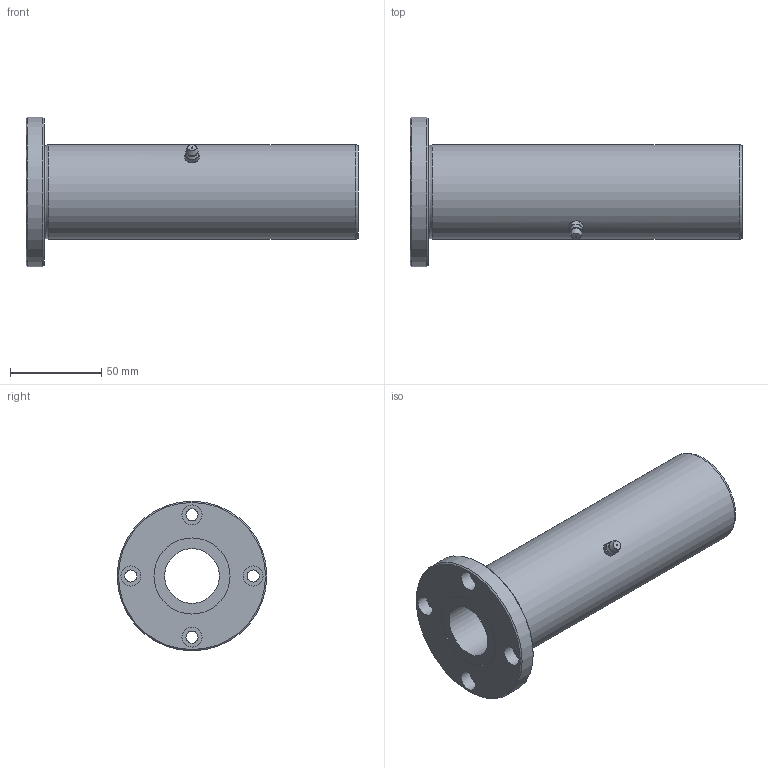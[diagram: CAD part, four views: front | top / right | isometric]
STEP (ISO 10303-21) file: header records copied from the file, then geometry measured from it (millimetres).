
FILE_DESCRIPTION((''),'2;1');
FILE_NAME('D:\製品 (図面)\カタログ用3D\リニアベアリング関連\STEP形式\LFL\LFL30.stp','2010-06-04T09:00:42',('Tsuchiya'),(''),'Autodesk Inventor 10','Autodesk Inventor 10','');
FILE_SCHEMA(('AUTOMOTIVE_DESIGN { 1 0 10303 214 1 1 1 1 }'));
Length unit declared in the file: millimetre
Products named in the file (1): LFL30
Bounding box: 182 x 82 x 82 mm (x, y, z)
Volume: 286297.6 mm3; surface area: 57846.7 mm2
Topology: 1 solids, 1 shells, 55 faces, 110 edges, 66 vertices
Faces by surface type: plane 19, cone 15, cylinder 15, bspline 3, sphere 2, torus 1
Full cylindrical faces by diameter (mm): 6.6 x4, 11 x4, 30 x1, 41.7 x2, 52 x1, 82 x1
Entity records: 1561 total; most frequent: CARTESIAN_POINT 508, DIRECTION 220, ORIENTED_EDGE 176, AXIS2_PLACEMENT_3D 105, EDGE_LOOP 96, EDGE_CURVE 88, VERTEX_POINT 64, FACE_OUTER_BOUND 55
